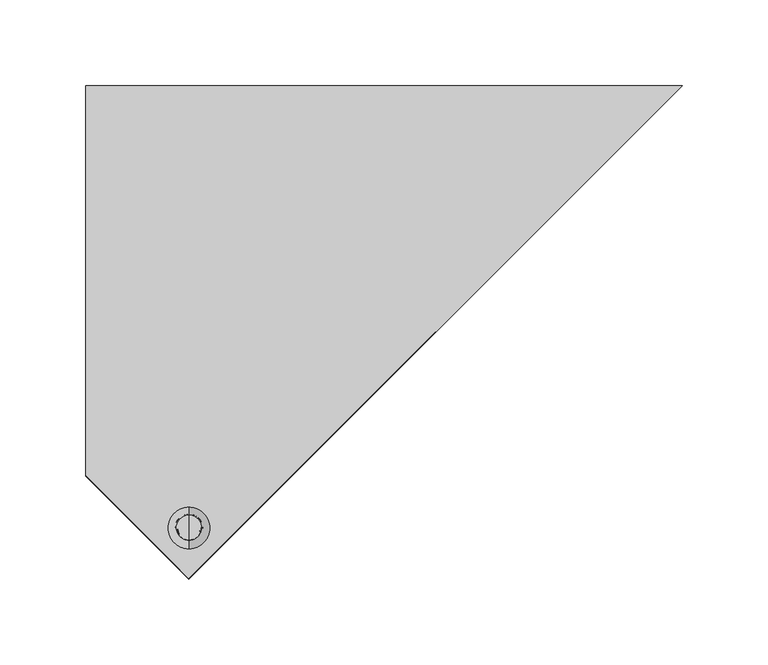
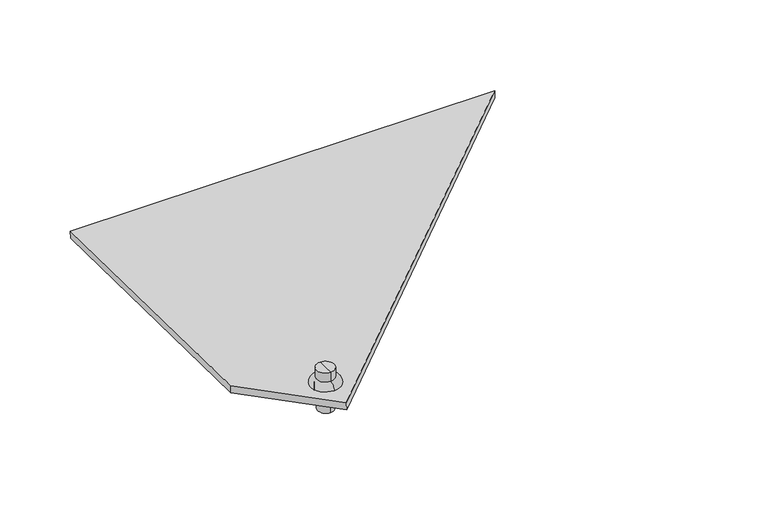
"""IFC4 building model written with IfcOpenShell, lengths in millimetres: proxy geometry, Roofing_Panels_SunStyle_Tuile_Coin-Haut-Petit-Gauche : Coin Haut Petit Gauche - Noir."""

import ifcopenshell
import ifcopenshell.guid

model = None  # the IFC model being written
_history = None  # IfcOwnerHistory: only IFC2X3 demands one
_inside = {}  # id of a spatial element -> (the spatial element, [elements in it])
_under = {}  # id of a project, library or spatial element -> (it, [spatial elements below it])
_declared = {}  # id of a project -> (the project, [libraries it declares])
_typed = {}  # id of a type object -> (the type object, [elements of that type])
_made_of = {}  # id of a material, layer set ... -> (it, [elements and type objects made of it])


def new_model(schema):
    """Start an empty IFC model of exactly this schema.

    Asked for "IFC4X3", IfcOpenShell would pick the latest addendum, in which some entities
    have other attributes; the version numbers below select the first issue.
    IFC2X3 requires an IfcOwnerHistory on every rooted entity: one is made here for all.
    """
    global model, _history
    if schema == "IFC4X3":
        model = ifcopenshell.file(schema_version=(4, 3, 0, 0))
    else:
        model = ifcopenshell.file(schema=schema)
    _inside.clear()
    _under.clear()
    _declared.clear()
    _typed.clear()
    _made_of.clear()
    _history = None
    if model.schema == "IFC2X3":
        org = make("IfcOrganization", Name="unknown")
        user = make(
            "IfcPersonAndOrganization",
            ThePerson=make("IfcPerson", FamilyName="unknown"),
            TheOrganization=org,
        )
        app = make(
            "IfcApplication",
            ApplicationDeveloper=org,
            Version="unknown",
            ApplicationFullName="unknown",
            ApplicationIdentifier="unknown",
        )
        _history = make(
            "IfcOwnerHistory",
            OwningUser=user,
            OwningApplication=app,
            ChangeAction="ADDED",
            CreationDate=0,
        )
    return model


def make(cls, **values):
    """One entity of the class cls with the attributes given. An attribute that is None is left unset."""
    return model.create_entity(
        cls, **{name: value for name, value in values.items() if value is not None}
    )


def rooted(cls, **values):
    """An entity with a GlobalId (a new one), such as an element, a storey or a relation."""
    return make(cls, GlobalId=ifcopenshell.guid.new(), OwnerHistory=_history, **values)


def si_unit(unit_type, name, prefix=None):
    """IfcSIUnit, for example si_unit("LENGTHUNIT", "METRE", prefix="MILLI")."""
    return make("IfcSIUnit", UnitType=unit_type, Prefix=prefix, Name=name)


def assignment(units):
    """IfcUnitAssignment: the units of a project."""
    return None if units is None else make("IfcUnitAssignment", Units=units)


def point(xyz):
    """IfcCartesianPoint."""
    return None if xyz is None else make("IfcCartesianPoint", Coordinates=xyz)


def direction(xyz):
    """IfcDirection."""
    return None if xyz is None else make("IfcDirection", DirectionRatios=xyz)


def frame(location, z_axis=None, x_axis=None):
    """IfcAxis2Placement3D, a coordinate frame: its origin and axes. An axis left out is left unset."""
    return make(
        "IfcAxis2Placement3D",
        Location=point(location),
        Axis=direction(z_axis),
        RefDirection=direction(x_axis),
    )


def frame_2d(location, x_axis=None):
    """IfcAxis2Placement2D, a coordinate frame in the plane: its origin and x axis."""
    return make(
        "IfcAxis2Placement2D", Location=point(location), RefDirection=direction(x_axis)
    )


def origin():
    """The frame at (0, 0, 0) with its axes left unset."""
    return frame((0.0, 0.0, 0.0))


def place(relative_to, where):
    """IfcLocalPlacement: puts the frame where relative to a parent placement (None: the world)."""
    return make(
        "IfcLocalPlacement", PlacementRelTo=relative_to, RelativePlacement=where
    )


def context(
    kind, dimensions, precision=None, world=None, true_north=None, identifier=None
):
    """IfcGeometricRepresentationContext, for example the 3D "Model" context."""
    return make(
        "IfcGeometricRepresentationContext",
        ContextIdentifier=identifier,
        ContextType=kind,
        CoordinateSpaceDimension=dimensions,
        Precision=precision,
        WorldCoordinateSystem=world,
        TrueNorth=true_north,
    )


def project(units=None, contexts=None):
    """IfcProject with its units and contexts."""
    return rooted(
        "IfcProject",
        Name="project",
        RepresentationContexts=contexts,
        UnitsInContext=assignment(units),
    )


def spatial(cls, under=None, at=None, **own):
    """A site, building, storey or space (cls), placed at a placement, below another one or the project."""
    s = rooted(cls, ObjectPlacement=at, **own)
    if under is not None:
        _under.setdefault(under.id(), (under, []))[1].append(s)
    return s


def polyline(points):
    """IfcPolyline through the points."""
    return make("IfcPolyline", Points=[point(p) for p in points])


def circle_curve(where, radius):
    """IfcCircle in the frame where."""
    return make("IfcCircle", Position=where, Radius=radius)


def ellipse_curve(where, semi_axis1, semi_axis2):
    """IfcEllipse in the frame where."""
    return make(
        "IfcEllipse", Position=where, SemiAxis1=semi_axis1, SemiAxis2=semi_axis2
    )


def trimmed(basis, trim1, trim2, sense, master):
    """IfcTrimmedCurve: the piece of a basis curve between two trims."""
    return make(
        "IfcTrimmedCurve",
        BasisCurve=basis,
        Trim1=trim1,
        Trim2=trim2,
        SenseAgreement=sense,
        MasterRepresentation=master,
    )


def segment(curve, same_sense, transition):
    """IfcCompositeCurveSegment."""
    return make(
        "IfcCompositeCurveSegment",
        Transition=transition,
        SameSense=same_sense,
        ParentCurve=curve,
    )


def composite_curve(segments, self_intersect=None):
    """IfcCompositeCurve: segments joined end to end."""
    return make("IfcCompositeCurve", Segments=segments, SelfIntersect=self_intersect)


def outline(outer, holes=None, kind="AREA"):
    """IfcArbitraryClosedProfileDef: a profile drawn as a closed curve; with holes, ...WithVoids."""
    if holes is None:
        return make("IfcArbitraryClosedProfileDef", ProfileType=kind, OuterCurve=outer)
    return make(
        "IfcArbitraryProfileDefWithVoids",
        ProfileType=kind,
        OuterCurve=outer,
        InnerCurves=holes,
    )


def extrude(swept, where, along, depth):
    """IfcExtrudedAreaSolid: the profile swept, set in the frame where, extruded along a direction by depth."""
    return make(
        "IfcExtrudedAreaSolid",
        SweptArea=swept,
        Position=where,
        ExtrudedDirection=direction(along),
        Depth=depth,
    )


def shape(context_of_items, identifier, shape_type, items):
    """IfcShapeRepresentation: the items that make up one representation, for example the "Body"."""
    return make(
        "IfcShapeRepresentation",
        ContextOfItems=context_of_items,
        RepresentationIdentifier=identifier,
        RepresentationType=shape_type,
        Items=items,
    )


def source(mapping_origin, context_of_items, identifier, shape_type, items):
    """IfcRepresentationMap: a shape defined once, which mapped items show again and again."""
    return make(
        "IfcRepresentationMap",
        MappingOrigin=mapping_origin,
        MappedRepresentation=shape(context_of_items, identifier, shape_type, items),
    )


def transform(
    local_origin,
    x_axis=None,
    y_axis=None,
    z_axis=None,
    scale=None,
    scale2=None,
    scale3=None,
    uniform=True,
):
    """IfcCartesianTransformationOperator3D, or its non-uniform kind. x_axis, y_axis, z_axis: its Axis1, 2, 3."""
    if uniform:
        return make(
            "IfcCartesianTransformationOperator3D",
            Axis1=direction(x_axis),
            Axis2=direction(y_axis),
            LocalOrigin=point(local_origin),
            Scale=scale,
            Axis3=direction(z_axis),
        )
    return make(
        "IfcCartesianTransformationOperator3DnonUniform",
        Axis1=direction(x_axis),
        Axis2=direction(y_axis),
        LocalOrigin=point(local_origin),
        Scale=scale,
        Axis3=direction(z_axis),
        Scale2=scale2,
        Scale3=scale3,
    )


def mapped(mapping_source, mapping_target):
    """IfcMappedItem: shows the shape of a source again, moved by a transform."""
    return make(
        "IfcMappedItem", MappingSource=mapping_source, MappingTarget=mapping_target
    )


def made_of(thing, what):
    """Note that an element or type object is made of a material, layer set ...; save() writes the relation."""
    if what is not None:
        _made_of.setdefault(what.id(), (what, []))[1].append(thing)
    return thing


def element(
    cls,
    number,
    at=None,
    inside=None,
    cuts=None,
    type_object=None,
    material=None,
    context=None,
    identifier="Body",
    shape_type=None,
    held_by="IfcProductDefinitionShape",
    body=None,
    shapes=None,
    **own,
):
    """One element of the class cls, such as IfcWall. Its Tag is "e" and its number.

    at: its placement. inside: the storey or other place that contains it. cuts: it is an
    opening in that element (IfcRelVoidsElement). A single representation is given by context,
    identifier, shape_type and body (its items); several are given by shapes. held_by: the class
    of the entity that holds the representations. save() writes the other relations.
    """
    e = rooted(cls, Tag="e%d" % number, ObjectPlacement=at, **own)
    if body is not None:
        shapes = [shape(context, identifier, shape_type, body)]
    if shapes is not None:
        e.Representation = make(held_by, Representations=shapes)
    if inside is not None:
        _inside.setdefault(inside.id(), (inside, []))[1].append(e)
    if cuts is not None:
        rooted(
            "IfcRelVoidsElement", RelatingBuildingElement=cuts, RelatedOpeningElement=e
        )
    if type_object is not None:
        _typed.setdefault(type_object.id(), (type_object, []))[1].append(e)
    return made_of(e, material)


def aggregate(whole, parts):
    """IfcRelAggregates: a whole, such as a stair, and the parts it consists of."""
    return rooted("IfcRelAggregates", RelatingObject=whole, RelatedObjects=parts)


def save(model, path):
    """Write the relations noted so far, then the file.

    IfcRelAggregates (storeys below a building ...), IfcRelContainedInSpatialStructure (elements
    in a storey), IfcRelDefinesByType, IfcRelAssociatesMaterial and IfcRelDeclares: one each for
    every whole, place, type object, material and project.
    """
    for whole, parts in _under.values():
        aggregate(whole, parts)
    for where, things in _inside.values():
        rooted(
            "IfcRelContainedInSpatialStructure",
            RelatedElements=things,
            RelatingStructure=where,
        )
    for kind, things in _typed.values():
        rooted("IfcRelDefinesByType", RelatedObjects=things, RelatingType=kind)
    for what, things in _made_of.values():
        rooted("IfcRelAssociatesMaterial", RelatedObjects=things, RelatingMaterial=what)
    for by, libraries in _declared.values():
        rooted("IfcRelDeclares", RelatingContext=by, RelatedDefinitions=libraries)
    model.write(path)


def plane_surface(at):
    """IfcPlane: the flat surface through the origin of the frame at, square to its z axis."""
    return make("IfcPlane", Position=at)


def cylinder_surface(at, radius):
    """IfcCylindricalSurface: all points at the distance radius from the z axis of the frame at."""
    return make("IfcCylindricalSurface", Position=at, Radius=radius)


def revolved_surface(curve, axis_point, axis_direction):
    """IfcSurfaceOfRevolution: the curve turned about the line through axis_point along axis_direction."""
    return make(
        "IfcSurfaceOfRevolution",
        SweptCurve=make("IfcArbitraryOpenProfileDef", ProfileType="CURVE", Curve=curve),
        AxisPosition=make("IfcAxis1Placement", Location=point(axis_point), Axis=direction(axis_direction)),
    )


def advanced_brep(points, edges, surfaces, faces):
    """IfcAdvancedBrep: a solid bounded by faces that lie on surfaces and meet in shared edges.

    An edge is (start, end): straight between two places in points (the first is 0);
    or (start, end, curve); or (start, end, curve, False) where it runs against its curve.
    A face is (place in surfaces, loops), or (place, loops, False) where it looks against
    its surface's normal. A loop lists edges by number (the first is 1), with a minus sign
    where the edge is run from its end to its start. The first loop is the outer one.
    """
    corners = [point(p) for p in points]
    vertices = [make("IfcVertexPoint", VertexGeometry=c) for c in corners]
    made = []
    for start, end, *more in edges:
        made.append(
            make(
                "IfcEdgeCurve",
                EdgeStart=vertices[start],
                EdgeEnd=vertices[end],
                EdgeGeometry=more[0] if more else make("IfcPolyline", Points=[corners[start], corners[end]]),
                SameSense=more[1] if len(more) > 1 else True,
            )
        )
    hull = []
    for where, loops, *sense in faces:
        bounds = []
        for j, loop in enumerate(loops):
            ring = [make("IfcOrientedEdge", EdgeElement=made[abs(k) - 1], Orientation=k > 0) for k in loop]
            bounds.append(
                make(
                    "IfcFaceOuterBound" if j == 0 else "IfcFaceBound",
                    Bound=make("IfcEdgeLoop", EdgeList=ring),
                    Orientation=True,
                )
            )
        hull.append(make("IfcAdvancedFace", Bounds=bounds, FaceSurface=surfaces[where], SameSense=sense[0] if sense else True))
    return make("IfcAdvancedBrep", Outer=make("IfcClosedShell", CfsFaces=hull))


def generic_models_a376e61a(model_context):
    return source(origin(), model_context, "Body", "SolidModel", [
        advanced_brep(
        [(0.0, -592.202006, 26.2215343), (0.0, -578.8689254, 25.9982384), (0.0, -579.2372345, 4.0063691), (0.0, -592.5703151, 4.229665), (0.0, -597.7012348, 26.3136327), (0.0, -573.3696966, 25.90614), (0.0, -592.7522385, 31.2274395), (0.0, -578.1513756, 30.9829114), (0.0, -585.3177786, 39.1080636), (0.0, -578.0173471, 38.9857996), (0.0, -592.6182101, 39.2303277), (0.0, -585.9037748, 4.118017)],
        [
            (0, 1, circle_curve(frame((0.0, -585.5354657, 26.1098864), z_axis=(0.0, -0.016745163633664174, -0.9998597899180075), x_axis=(0.0, 0.9998597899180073, -0.01674516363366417)), 6.6674751)),
            (1, 2),
            (2, 3, circle_curve(frame((0.0, -585.9037748, 4.118017), z_axis=(0.0, 0.016745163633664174, 0.9998597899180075), x_axis=(0.0, 0.9998597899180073, -0.01674516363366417)), 6.6674751)),
            (3, 0),
            (1, 0, circle_curve(frame((0.0, -585.5354657, 26.1098864), z_axis=(0.0, -0.016745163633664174, -0.9998597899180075), x_axis=(0.0, 0.9998597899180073, -0.01674516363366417)), 6.6674751)),
            (3, 2, circle_curve(frame((0.0, -585.9037748, 4.118017), z_axis=(0.0, 0.016745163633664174, 0.9998597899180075), x_axis=(0.0, 0.9998597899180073, -0.01674516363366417)), 6.6674751)),
            (4, 5, circle_curve(frame((0.0, -585.5354657, 26.1098864), z_axis=(0.0, -0.016745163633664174, -0.9998597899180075), x_axis=(0.0, 0.9998597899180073, -0.01674516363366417)), 12.1674751)),
            (5, 1),
            (0, 4),
            (5, 4, circle_curve(frame((0.0, -585.5354657, 26.1098864), z_axis=(0.0, -0.016745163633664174, -0.9998597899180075), x_axis=(0.0, 0.9998597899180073, -0.01674516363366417)), 12.1674751)),
            (6, 7, circle_curve(frame((0.0, -585.451807, 31.1051755), z_axis=(0.0, -0.016745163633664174, -0.9998597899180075), x_axis=(0.0, 0.9998597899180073, -0.01674516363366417)), 7.3014552)),
            (7, 5, circle_curve(frame((0.0, -578.4555735, 25.90614), z_axis=(-1.0, 0.0, 0.0), x_axis=(0.0, -1.0, 0.0)), 5.0858769)),
            (4, 6, circle_curve(frame((0.0, -592.6182101, 26.1433289), z_axis=(-1.0, 0.0, 0.0), x_axis=(0.0, 0.9994391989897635, -0.03348563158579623)), 5.0858769)),
            (7, 6, circle_curve(frame((0.0, -585.451807, 31.1051755), z_axis=(0.0, -0.016745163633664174, -0.9998597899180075), x_axis=(0.0, 0.9998597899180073, -0.01674516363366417)), 7.3014552)),
            (8, 9),
            (9, 10, circle_curve(frame((0.0, -585.3177786, 39.1080636), z_axis=(0.0, 0.016745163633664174, 0.9998597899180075), x_axis=(0.0, 0.9998597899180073, -0.01674516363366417)), 7.3014552)),
            (10, 8),
            (10, 9, circle_curve(frame((0.0, -585.3177786, 39.1080636), z_axis=(0.0, 0.016745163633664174, 0.9998597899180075), x_axis=(0.0, 0.9998597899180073, -0.01674516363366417)), 7.3014552)),
            (2, 11),
            (11, 3),
            (9, 7),
            (6, 10),
        ],
        [
            cylinder_surface(frame((0.0, -585.3177786, 39.1080636), z_axis=(0.0, 0.01674516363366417, 0.9998597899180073), x_axis=(0.0, 0.9998597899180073, -0.01674516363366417)), 6.6674751),
            plane_surface(frame((0.0, -585.5354657, 26.1098864), z_axis=(0.0, -0.016745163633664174, -0.9998597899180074), x_axis=(0.0, 0.9998597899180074, -0.016745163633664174))),
            revolved_surface(trimmed(ellipse_curve(frame((0.0, -578.4555735, 25.90614), z_axis=(1.0, 0.0, 0.0), x_axis=(0.0, -1.0, 0.0)), 5.0858769, 5.0858769), [point((0.0, -573.3696966, 25.90614))], [point((0.0, -578.1513756, 30.9829114))], True, "CARTESIAN"), (0.0, -585.3177786, 39.1080636), (0.0, 0.01674516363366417, 0.9998597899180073)),
            plane_surface(frame((0.0, -585.3177786, 39.1080636), z_axis=(0.0, 0.016745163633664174, 0.9998597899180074), x_axis=(0.0, 0.9998597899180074, -0.016745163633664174))),
            plane_surface(frame((0.0, -585.9037748, 4.118017), z_axis=(0.0, -0.016745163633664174, -0.9998597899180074), x_axis=(0.0, 0.9998597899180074, -0.016745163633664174))),
            cylinder_surface(frame((0.0, -585.3177786, 39.1080636), z_axis=(0.0, 0.01674516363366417, 0.9998597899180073), x_axis=(0.0, 0.9998597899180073, -0.01674516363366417)), 7.3014552),
        ],
        [
            (0, [[1, 2, 3, 4]]),
            (0, [[5, -4, 6, -2]]),
            (1, [[7, 8, -1, 9]]),
            (1, [[10, -9, -5, -8]]),
            (2, [[11, 12, -7, 13]]),
            (2, [[14, -13, -10, -12]]),
            (3, [[15, 16, 17]]),
            (3, [[-17, 18, -15]]),
            (4, [[-3, 19, 20]]),
            (4, [[-6, -20, -19]]),
            (5, [[-16, 21, -11, 22]]),
            (5, [[-18, -22, -14, -21]]),
        ],
    ),
        extrude(outline(polyline([(30.4160582, 68.1037539), (257.7552628, 68.1037539), (257.7552628, -279.474193), (-29.678946, 8.0003225), (30.4160582, 68.1037539)]), holes=[composite_curve([segment(trimmed(circle_curve(frame_2d((0.0, 8.0)), 8.0), [point((0.0, 16.0))], [point((0.0, 0.0))], True, "CARTESIAN"), True, "CONTINUOUS"), segment(trimmed(circle_curve(frame_2d((0.0, 8.0)), 8.0), [point((0.0, 0.0))], [point((0.0, 16.0))], True, "CARTESIAN"), True, "CONTINUOUS")], self_intersect=False)]), frame((8.0, -585.6358522, 20.1107262), z_axis=(0.0, 0.016745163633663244, 0.9998597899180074), x_axis=(0.0, 0.9998597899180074, -0.016745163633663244)), (0.0, 0.0, 1.0), 6.0),
    ])


if __name__ == "__main__":
    model = new_model("IFC4")
    model_context = context("Model", 3, world=origin())
    ifc_project = project(units=[si_unit("LENGTHUNIT", "METRE", prefix="MILLI")], contexts=[model_context])
    site = spatial("IfcSite", under=ifc_project)
    building = spatial("IfcBuilding", under=site)
    placement = place(None, origin())
    generic_models_shape = generic_models_a376e61a(model_context)
    element("IfcBuildingElementProxy", 1, Name="Roofing_Panels_SunStyle_Tuile_Coin-Haut-Petit-Gauche : Coin Haut Petit Gauche - Noir", ObjectType="Roofing_Panels_SunStyle_Tuile_Coin-Haut-Petit-Gauche : Coin Haut Petit Gauche - Noir", at=placement, inside=building, context=model_context, shape_type="MappedRepresentation", body=[
        mapped(generic_models_shape, transform((0.0, 0.0, 0.0), x_axis=(1.0, 0.0, 0.0), y_axis=(0.0, 1.0, 0.0), z_axis=(0.0, 0.0, 1.0))),
    ])
    save(model, "model.ifc")
